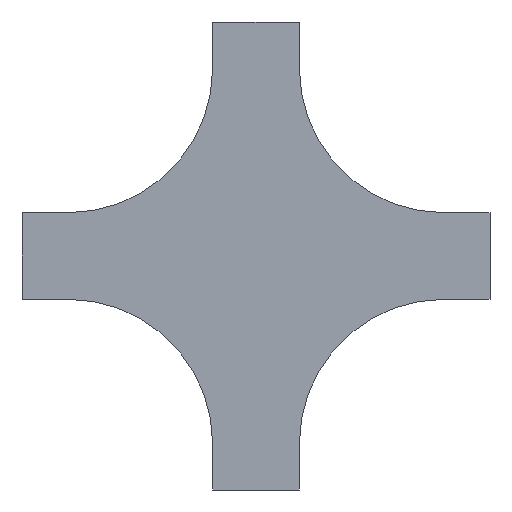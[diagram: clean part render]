
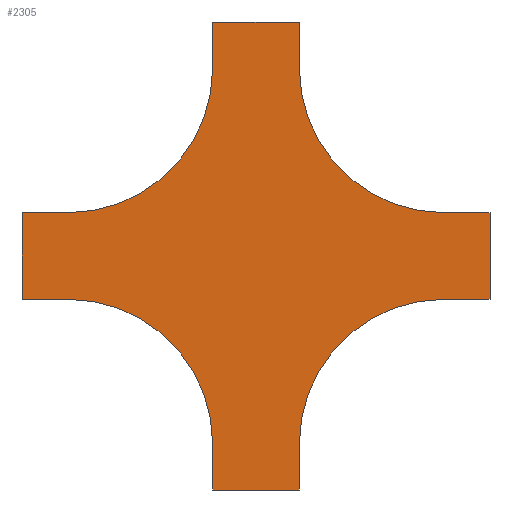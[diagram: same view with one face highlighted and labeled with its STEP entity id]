
A CAD part, front view. The second image highlights one B-rep face of the part: STEP entity #2305.
In plain terms, the highlighted planar face has unit normal (0, -1, 0).
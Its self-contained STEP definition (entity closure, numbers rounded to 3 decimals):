
#30 = DIRECTION ( 'NONE',  ( 0., 0., -1. ) ) ;
#49 = FACE_OUTER_BOUND ( 'NONE', #1398, .T. ) ;
#65 = ORIENTED_EDGE ( 'NONE', *, *, #1486, .F. ) ;
#125 = LINE ( 'NONE', #1140, #756 ) ;
#137 = VERTEX_POINT ( 'NONE', #1706 ) ;
#153 = CARTESIAN_POINT ( 'NONE',  ( 0., 0., -200. ) ) ;
#159 = EDGE_CURVE ( 'NONE', #209, #710, #3239, .T. ) ;
#160 = VERTEX_POINT ( 'NONE', #1491 ) ;
#183 = DIRECTION ( 'NONE',  ( 0., 0., -1. ) ) ;
#189 = EDGE_CURVE ( 'NONE', #2524, #579, #2507, .T. ) ;
#192 = DIRECTION ( 'NONE',  ( 0., 0., -1. ) ) ;
#209 = VERTEX_POINT ( 'NONE', #508 ) ;
#265 = DIRECTION ( 'NONE',  ( 0., 0., 1. ) ) ;
#266 = VECTOR ( 'NONE', #1204, 1000. ) ;
#267 = ORIENTED_EDGE ( 'NONE', *, *, #3283, .F. ) ;
#363 = LINE ( 'NONE', #2149, #3100 ) ;
#392 = EDGE_CURVE ( 'NONE', #2955, #2857, #2374, .T. ) ;
#398 = CARTESIAN_POINT ( 'NONE',  ( -200., 0., 40. ) ) ;
#406 = DIRECTION ( 'NONE',  ( 0., -1., 0. ) ) ;
#469 = EDGE_CURVE ( 'NONE', #137, #2732, #2033, .T. ) ;
#472 = CARTESIAN_POINT ( 'NONE',  ( 0., 0., -125. ) ) ;
#496 = CARTESIAN_POINT ( 'NONE',  ( 0., 0., -125. ) ) ;
#504 = VERTEX_POINT ( 'NONE', #2406 ) ;
#506 = DIRECTION ( 'NONE',  ( 1., 0., 0. ) ) ;
#508 = CARTESIAN_POINT ( 'NONE',  ( 40., 0., -200. ) ) ;
#509 = EDGE_CURVE ( 'NONE', #2779, #209, #125, .T. ) ;
#551 = CARTESIAN_POINT ( 'NONE',  ( -200., 0., 40. ) ) ;
#554 = CARTESIAN_POINT ( 'NONE',  ( -365., 0., -200. ) ) ;
#568 = PLANE ( 'NONE',  #2144 ) ;
#579 = VERTEX_POINT ( 'NONE', #1837 ) ;
#624 = ORIENTED_EDGE ( 'NONE', *, *, #946, .F. ) ;
#628 = DIRECTION ( 'NONE',  ( 0., -1., 0. ) ) ;
#657 = DIRECTION ( 'NONE',  ( -1., 0., 0. ) ) ;
#710 = VERTEX_POINT ( 'NONE', #153 ) ;
#722 = VERTEX_POINT ( 'NONE', #1409 ) ;
#742 = LINE ( 'NONE', #472, #2705 ) ;
#744 = CARTESIAN_POINT ( 'NONE',  ( -200., 0., -365. ) ) ;
#756 = VECTOR ( 'NONE', #3173, 1000. ) ;
#766 = ORIENTED_EDGE ( 'NONE', *, *, #1964, .F. ) ;
#785 = DIRECTION ( 'NONE',  ( 1., 0., 0. ) ) ;
#861 = ORIENTED_EDGE ( 'NONE', *, *, #906, .F. ) ;
#906 = EDGE_CURVE ( 'NONE', #504, #137, #1215, .T. ) ;
#912 = EDGE_CURVE ( 'NONE', #2857, #722, #1770, .T. ) ;
#916 = VECTOR ( 'NONE', #1575, 1000. ) ;
#946 = EDGE_CURVE ( 'NONE', #2757, #504, #2811, .T. ) ;
#959 = DIRECTION ( 'NONE',  ( -1., 0., 0. ) ) ;
#966 = CARTESIAN_POINT ( 'NONE',  ( -125., 0., -325. ) ) ;
#1033 = VERTEX_POINT ( 'NONE', #1551 ) ;
#1125 = VECTOR ( 'NONE', #657, 1000. ) ;
#1140 = CARTESIAN_POINT ( 'NONE',  ( 40., 0., -125. ) ) ;
#1147 = EDGE_CURVE ( 'NONE', #1834, #2757, #2383, .T. ) ;
#1204 = DIRECTION ( 'NONE',  ( 1., 0., 0. ) ) ;
#1215 = LINE ( 'NONE', #2015, #3140 ) ;
#1218 = CARTESIAN_POINT ( 'NONE',  ( -365., 0., -125. ) ) ;
#1296 = VECTOR ( 'NONE', #1970, 1000. ) ;
#1398 = EDGE_LOOP ( 'NONE', ( #624, #2966, #2479, #2071, #1916, #65, #267, #1472, #2620, #766, #3294, #1965, #1417, #1995, #1404, #861 ) ) ;
#1404 = ORIENTED_EDGE ( 'NONE', *, *, #469, .F. ) ;
#1409 = CARTESIAN_POINT ( 'NONE',  ( -325., 0., -125. ) ) ;
#1417 = ORIENTED_EDGE ( 'NONE', *, *, #509, .F. ) ;
#1446 = VECTOR ( 'NONE', #2432, 1000. ) ;
#1472 = ORIENTED_EDGE ( 'NONE', *, *, #2927, .F. ) ;
#1486 = EDGE_CURVE ( 'NONE', #160, #2955, #2419, .T. ) ;
#1491 = CARTESIAN_POINT ( 'NONE',  ( -325., 0., -200. ) ) ;
#1494 = AXIS2_PLACEMENT_3D ( 'NONE', #2189, #628, #1921 ) ;
#1508 = CARTESIAN_POINT ( 'NONE',  ( 0., 0., -325. ) ) ;
#1511 = CARTESIAN_POINT ( 'NONE',  ( 0., 0., -200. ) ) ;
#1551 = CARTESIAN_POINT ( 'NONE',  ( -200., 0., -325. ) ) ;
#1575 = DIRECTION ( 'NONE',  ( 0., 0., 1. ) ) ;
#1582 = CARTESIAN_POINT ( 'NONE',  ( -125., 0., -365. ) ) ;
#1587 = CARTESIAN_POINT ( 'NONE',  ( 0., 0., 0. ) ) ;
#1623 = VERTEX_POINT ( 'NONE', #966 ) ;
#1670 = CARTESIAN_POINT ( 'NONE',  ( -200., 0., 0. ) ) ;
#1706 = CARTESIAN_POINT ( 'NONE',  ( -125., 0., 0. ) ) ;
#1725 = CARTESIAN_POINT ( 'NONE',  ( -325., 0., 0. ) ) ;
#1761 = CARTESIAN_POINT ( 'NONE',  ( 40., 0., -125. ) ) ;
#1770 = LINE ( 'NONE', #2782, #266 ) ;
#1834 = VERTEX_POINT ( 'NONE', #1670 ) ;
#1837 = CARTESIAN_POINT ( 'NONE',  ( -200., 0., -365. ) ) ;
#1849 = DIRECTION ( 'NONE',  ( 0., -1., 0. ) ) ;
#1916 = ORIENTED_EDGE ( 'NONE', *, *, #392, .F. ) ;
#1921 = DIRECTION ( 'NONE',  ( 0., 0., -1. ) ) ;
#1964 = EDGE_CURVE ( 'NONE', #1623, #2524, #363, .T. ) ;
#1965 = ORIENTED_EDGE ( 'NONE', *, *, #159, .F. ) ;
#1970 = DIRECTION ( 'NONE',  ( -1., 0., 0. ) ) ;
#1986 = DIRECTION ( 'NONE',  ( 0., 0., 1. ) ) ;
#1995 = ORIENTED_EDGE ( 'NONE', *, *, #2890, .F. ) ;
#2015 = CARTESIAN_POINT ( 'NONE',  ( -125., 0., 40. ) ) ;
#2018 = LINE ( 'NONE', #3036, #2329 ) ;
#2033 = CIRCLE ( 'NONE', #1494, 125. ) ;
#2036 = EDGE_CURVE ( 'NONE', #722, #1834, #2568, .T. ) ;
#2065 = DIRECTION ( 'NONE',  ( 0., -1., 0. ) ) ;
#2071 = ORIENTED_EDGE ( 'NONE', *, *, #912, .F. ) ;
#2115 = AXIS2_PLACEMENT_3D ( 'NONE', #2861, #2065, #30 ) ;
#2144 = AXIS2_PLACEMENT_3D ( 'NONE', #1587, #1849, #2367 ) ;
#2149 = CARTESIAN_POINT ( 'NONE',  ( -125., 0., -365. ) ) ;
#2189 = CARTESIAN_POINT ( 'NONE',  ( 0., 0., 0. ) ) ;
#2276 = AXIS2_PLACEMENT_3D ( 'NONE', #1508, #3067, #2526 ) ;
#2305 = ADVANCED_FACE ( 'NONE', ( #49 ), #568, .T. ) ;
#2329 = VECTOR ( 'NONE', #265, 1000. ) ;
#2367 = DIRECTION ( 'NONE',  ( 0., 0., -1. ) ) ;
#2374 = LINE ( 'NONE', #2852, #916 ) ;
#2383 = LINE ( 'NONE', #398, #1446 ) ;
#2406 = CARTESIAN_POINT ( 'NONE',  ( -125., 0., 40. ) ) ;
#2419 = LINE ( 'NONE', #2472, #1125 ) ;
#2432 = DIRECTION ( 'NONE',  ( 0., 0., 1. ) ) ;
#2472 = CARTESIAN_POINT ( 'NONE',  ( -325., 0., -200. ) ) ;
#2479 = ORIENTED_EDGE ( 'NONE', *, *, #2036, .F. ) ;
#2507 = LINE ( 'NONE', #744, #1296 ) ;
#2524 = VERTEX_POINT ( 'NONE', #1582 ) ;
#2526 = DIRECTION ( 'NONE',  ( 0., 0., 1. ) ) ;
#2568 = CIRCLE ( 'NONE', #2622, 125. ) ;
#2620 = ORIENTED_EDGE ( 'NONE', *, *, #189, .F. ) ;
#2622 = AXIS2_PLACEMENT_3D ( 'NONE', #1725, #406, #1986 ) ;
#2670 = VECTOR ( 'NONE', #959, 1000. ) ;
#2705 = VECTOR ( 'NONE', #506, 1000. ) ;
#2732 = VERTEX_POINT ( 'NONE', #496 ) ;
#2757 = VERTEX_POINT ( 'NONE', #3046 ) ;
#2779 = VERTEX_POINT ( 'NONE', #1761 ) ;
#2782 = CARTESIAN_POINT ( 'NONE',  ( -325., 0., -125. ) ) ;
#2811 = LINE ( 'NONE', #551, #3089 ) ;
#2852 = CARTESIAN_POINT ( 'NONE',  ( -365., 0., -125. ) ) ;
#2857 = VERTEX_POINT ( 'NONE', #1218 ) ;
#2861 = CARTESIAN_POINT ( 'NONE',  ( -325., 0., -325. ) ) ;
#2890 = EDGE_CURVE ( 'NONE', #2732, #2779, #742, .T. ) ;
#2923 = EDGE_CURVE ( 'NONE', #710, #1623, #3022, .T. ) ;
#2927 = EDGE_CURVE ( 'NONE', #579, #1033, #2018, .T. ) ;
#2955 = VERTEX_POINT ( 'NONE', #554 ) ;
#2966 = ORIENTED_EDGE ( 'NONE', *, *, #1147, .F. ) ;
#3022 = CIRCLE ( 'NONE', #2276, 125. ) ;
#3036 = CARTESIAN_POINT ( 'NONE',  ( -200., 0., -365. ) ) ;
#3046 = CARTESIAN_POINT ( 'NONE',  ( -200., 0., 40. ) ) ;
#3067 = DIRECTION ( 'NONE',  ( 0., -1., 0. ) ) ;
#3089 = VECTOR ( 'NONE', #785, 1000. ) ;
#3100 = VECTOR ( 'NONE', #192, 1000. ) ;
#3140 = VECTOR ( 'NONE', #183, 1000. ) ;
#3173 = DIRECTION ( 'NONE',  ( 0., 0., -1. ) ) ;
#3239 = LINE ( 'NONE', #1511, #2670 ) ;
#3283 = EDGE_CURVE ( 'NONE', #1033, #160, #3289, .T. ) ;
#3289 = CIRCLE ( 'NONE', #2115, 125. ) ;
#3294 = ORIENTED_EDGE ( 'NONE', *, *, #2923, .F. ) ;
